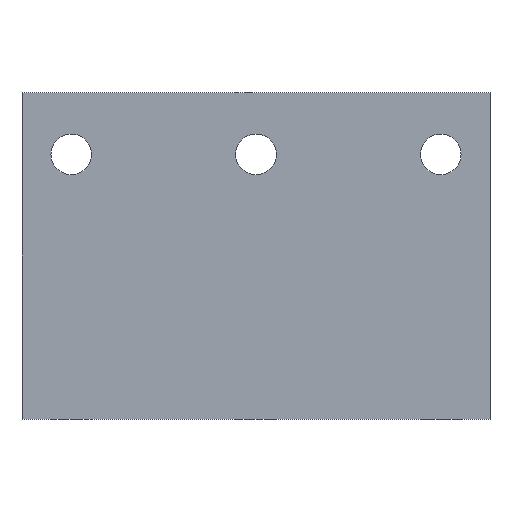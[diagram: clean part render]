
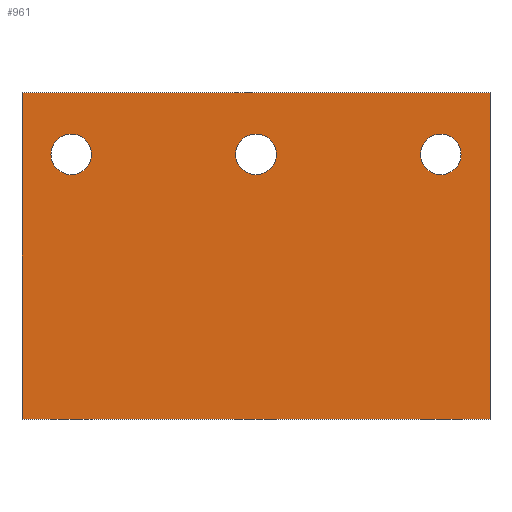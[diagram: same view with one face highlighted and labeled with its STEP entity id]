
A CAD part, front view. The second image highlights one B-rep face of the part: STEP entity #961.
In plain terms, the highlighted planar face has unit normal (0, -1, 0).
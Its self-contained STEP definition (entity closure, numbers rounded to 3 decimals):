
#9 = AXIS2_PLACEMENT_3D ( 'NONE', #1679, #902, #133 ) ;
#62 = DIRECTION ( 'NONE',  ( 0., 1., 0. ) ) ;
#85 = ORIENTED_EDGE ( 'NONE', *, *, #373, .T. ) ;
#102 = ORIENTED_EDGE ( 'NONE', *, *, #458, .F. ) ;
#109 = PLANE ( 'NONE',  #1359 ) ;
#110 = VERTEX_POINT ( 'NONE', #603 ) ;
#127 = LINE ( 'NONE', #470, #1064 ) ;
#133 = DIRECTION ( 'NONE',  ( 0., 0., 1. ) ) ;
#160 = CARTESIAN_POINT ( 'NONE',  ( -38., 0., 53. ) ) ;
#172 = CARTESIAN_POINT ( 'NONE',  ( 38., 0., 0. ) ) ;
#181 = ORIENTED_EDGE ( 'NONE', *, *, #427, .T. ) ;
#197 = EDGE_CURVE ( 'NONE', #964, #1203, #1244, .T. ) ;
#203 = EDGE_CURVE ( 'NONE', #231, #773, #568, .T. ) ;
#225 = EDGE_LOOP ( 'NONE', ( #414, #102, #791, #659 ) ) ;
#229 = VECTOR ( 'NONE', #1053, 1000. ) ;
#231 = VERTEX_POINT ( 'NONE', #805 ) ;
#274 = DIRECTION ( 'NONE',  ( -1., 0., 0. ) ) ;
#283 = EDGE_CURVE ( 'NONE', #387, #1147, #292, .T. ) ;
#292 = CIRCLE ( 'NONE', #9, 3.3 ) ;
#303 = CARTESIAN_POINT ( 'NONE',  ( -30., 0., 46.3 ) ) ;
#322 = CARTESIAN_POINT ( 'NONE',  ( 30., 0., 46.3 ) ) ;
#334 = EDGE_CURVE ( 'NONE', #410, #749, #391, .T. ) ;
#351 = CIRCLE ( 'NONE', #1212, 3.3 ) ;
#373 = EDGE_CURVE ( 'NONE', #749, #410, #351, .T. ) ;
#380 = CARTESIAN_POINT ( 'NONE',  ( 38., 0., 53. ) ) ;
#382 = EDGE_LOOP ( 'NONE', ( #181, #1185 ) ) ;
#387 = VERTEX_POINT ( 'NONE', #303 ) ;
#391 = CIRCLE ( 'NONE', #705, 3.3 ) ;
#410 = VERTEX_POINT ( 'NONE', #940 ) ;
#414 = ORIENTED_EDGE ( 'NONE', *, *, #203, .T. ) ;
#427 = EDGE_CURVE ( 'NONE', #1203, #964, #613, .T. ) ;
#431 = CARTESIAN_POINT ( 'NONE',  ( 0., 0., 43. ) ) ;
#442 = DIRECTION ( 'NONE',  ( 0., 1., 0. ) ) ;
#443 = VERTEX_POINT ( 'NONE', #172 ) ;
#446 = FACE_BOUND ( 'NONE', #571, .T. ) ;
#458 = EDGE_CURVE ( 'NONE', #443, #773, #1551, .T. ) ;
#470 = CARTESIAN_POINT ( 'NONE',  ( 38., 0., 53. ) ) ;
#509 = DIRECTION ( 'NONE',  ( 0., 0., 1. ) ) ;
#512 = EDGE_CURVE ( 'NONE', #110, #231, #533, .T. ) ;
#533 = LINE ( 'NONE', #1031, #830 ) ;
#552 = CARTESIAN_POINT ( 'NONE',  ( 30., 0., 43. ) ) ;
#553 = DIRECTION ( 'NONE',  ( 0., 1., 0. ) ) ;
#560 = DIRECTION ( 'NONE',  ( 0., 0., 1. ) ) ;
#568 = LINE ( 'NONE', #160, #229 ) ;
#571 = EDGE_LOOP ( 'NONE', ( #85, #828 ) ) ;
#603 = CARTESIAN_POINT ( 'NONE',  ( 38., 0., 53. ) ) ;
#613 = CIRCLE ( 'NONE', #1477, 3.3 ) ;
#659 = ORIENTED_EDGE ( 'NONE', *, *, #512, .T. ) ;
#676 = ORIENTED_EDGE ( 'NONE', *, *, #1485, .T. ) ;
#678 = DIRECTION ( 'NONE',  ( 0., 0., 1. ) ) ;
#705 = AXIS2_PLACEMENT_3D ( 'NONE', #1311, #553, #1443 ) ;
#749 = VERTEX_POINT ( 'NONE', #757 ) ;
#757 = CARTESIAN_POINT ( 'NONE',  ( 0., 0., 46.3 ) ) ;
#768 = CARTESIAN_POINT ( 'NONE',  ( -30., 0., 39.7 ) ) ;
#773 = VERTEX_POINT ( 'NONE', #1661 ) ;
#791 = ORIENTED_EDGE ( 'NONE', *, *, #1577, .F. ) ;
#805 = CARTESIAN_POINT ( 'NONE',  ( -38., 0., 53. ) ) ;
#827 = DIRECTION ( 'NONE',  ( -1., 0., 0. ) ) ;
#828 = ORIENTED_EDGE ( 'NONE', *, *, #334, .T. ) ;
#830 = VECTOR ( 'NONE', #274, 1000. ) ;
#843 = CARTESIAN_POINT ( 'NONE',  ( -30., 0., 43. ) ) ;
#902 = DIRECTION ( 'NONE',  ( 0., 1., 0. ) ) ;
#905 = VECTOR ( 'NONE', #827, 1000. ) ;
#940 = CARTESIAN_POINT ( 'NONE',  ( 0., 0., 39.7 ) ) ;
#961 = ADVANCED_FACE ( 'NONE', ( #1507, #446, #1424, #1072 ), #109, .F. ) ;
#964 = VERTEX_POINT ( 'NONE', #1528 ) ;
#965 = DIRECTION ( 'NONE',  ( 0., 0., 1. ) ) ;
#1031 = CARTESIAN_POINT ( 'NONE',  ( 38., 0., 53. ) ) ;
#1053 = DIRECTION ( 'NONE',  ( 0., 0., -1. ) ) ;
#1064 = VECTOR ( 'NONE', #1487, 1000. ) ;
#1069 = AXIS2_PLACEMENT_3D ( 'NONE', #552, #1440, #678 ) ;
#1072 = FACE_OUTER_BOUND ( 'NONE', #225, .T. ) ;
#1147 = VERTEX_POINT ( 'NONE', #768 ) ;
#1185 = ORIENTED_EDGE ( 'NONE', *, *, #197, .T. ) ;
#1196 = CARTESIAN_POINT ( 'NONE',  ( 30., 0., 43. ) ) ;
#1203 = VERTEX_POINT ( 'NONE', #322 ) ;
#1212 = AXIS2_PLACEMENT_3D ( 'NONE', #431, #1315, #560 ) ;
#1244 = CIRCLE ( 'NONE', #1069, 3.3 ) ;
#1261 = DIRECTION ( 'NONE',  ( 0., 1., 0. ) ) ;
#1298 = AXIS2_PLACEMENT_3D ( 'NONE', #843, #62, #965 ) ;
#1311 = CARTESIAN_POINT ( 'NONE',  ( 0., 0., 43. ) ) ;
#1315 = DIRECTION ( 'NONE',  ( 0., 1., 0. ) ) ;
#1321 = DIRECTION ( 'NONE',  ( 0., 0., 1. ) ) ;
#1359 = AXIS2_PLACEMENT_3D ( 'NONE', #380, #1261, #509 ) ;
#1383 = ORIENTED_EDGE ( 'NONE', *, *, #283, .T. ) ;
#1424 = FACE_BOUND ( 'NONE', #382, .T. ) ;
#1440 = DIRECTION ( 'NONE',  ( 0., 1., 0. ) ) ;
#1443 = DIRECTION ( 'NONE',  ( 0., 0., 1. ) ) ;
#1477 = AXIS2_PLACEMENT_3D ( 'NONE', #1196, #442, #1321 ) ;
#1485 = EDGE_CURVE ( 'NONE', #1147, #387, #1495, .T. ) ;
#1487 = DIRECTION ( 'NONE',  ( 0., 0., -1. ) ) ;
#1494 = EDGE_LOOP ( 'NONE', ( #1383, #676 ) ) ;
#1495 = CIRCLE ( 'NONE', #1298, 3.3 ) ;
#1507 = FACE_BOUND ( 'NONE', #1494, .T. ) ;
#1528 = CARTESIAN_POINT ( 'NONE',  ( 30., 0., 39.7 ) ) ;
#1551 = LINE ( 'NONE', #1598, #905 ) ;
#1577 = EDGE_CURVE ( 'NONE', #110, #443, #127, .T. ) ;
#1598 = CARTESIAN_POINT ( 'NONE',  ( 38., 0., 0. ) ) ;
#1661 = CARTESIAN_POINT ( 'NONE',  ( -38., 0., 0. ) ) ;
#1679 = CARTESIAN_POINT ( 'NONE',  ( -30., 0., 43. ) ) ;
